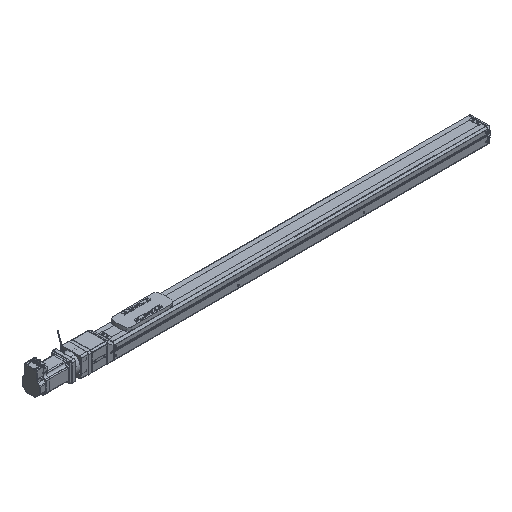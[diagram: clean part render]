
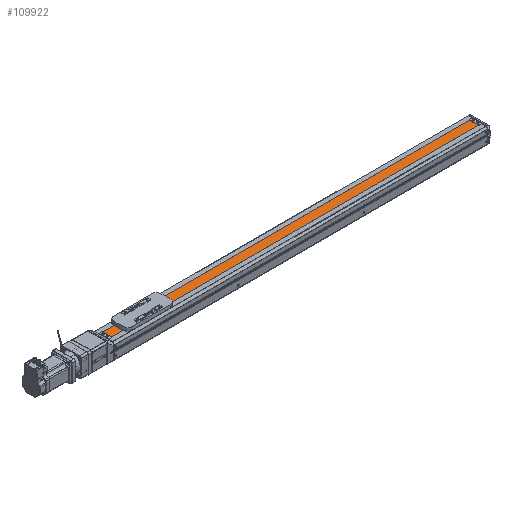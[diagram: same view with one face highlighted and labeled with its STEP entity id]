
A CAD part, isometric view. The second image highlights one B-rep face of the part: STEP entity #109922.
In plain terms, the highlighted planar face has unit normal (0, 0, 1) as drawn and (0, 1, 0) by its records, which use the part's own axes.
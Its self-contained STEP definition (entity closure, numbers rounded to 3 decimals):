
#109922 = ADVANCED_FACE('',(#109923),#109937,.T.);
#109923 = FACE_BOUND('',#109924,.T.);
#109924 = EDGE_LOOP('',(#109925,#109960,#109988,#110016));
#109925 = ORIENTED_EDGE('',*,*,#109926,.F.);
#109926 = EDGE_CURVE('',#109927,#109929,#109931,.T.);
#109927 = VERTEX_POINT('',#109928);
#109928 = CARTESIAN_POINT('',(-1130.5,18.,-13.));
#109929 = VERTEX_POINT('',#109930);
#109930 = CARTESIAN_POINT('',(-21.5,18.,-13.));
#109931 = SURFACE_CURVE('',#109932,(#109936,#109948),.PCURVE_S1.);
#109932 = LINE('',#109933,#109934);
#109933 = CARTESIAN_POINT('',(-1130.5,18.,-13.));
#109934 = VECTOR('',#109935,1.);
#109935 = DIRECTION('',(1.,0.,0.));
#109936 = PCURVE('',#109937,#109942);
#109937 = PLANE('',#109938);
#109938 = AXIS2_PLACEMENT_3D('',#109939,#109940,#109941);
#109939 = CARTESIAN_POINT('',(-1140.5,18.,-26.583));
#109940 = DIRECTION('',(0.,1.,0.));
#109941 = DIRECTION('',(0.,-0.,1.));
#109942 = DEFINITIONAL_REPRESENTATION('',(#109943),#109947);
#109943 = LINE('',#109944,#109945);
#109944 = CARTESIAN_POINT('',(13.583,10.));
#109945 = VECTOR('',#109946,1.);
#109946 = DIRECTION('',(0.,1.));
#109947 = ( GEOMETRIC_REPRESENTATION_CONTEXT(2) 
PARAMETRIC_REPRESENTATION_CONTEXT() REPRESENTATION_CONTEXT('2D SPACE',''
  ) );
#109948 = PCURVE('',#109949,#109954);
#109949 = PLANE('',#109950);
#109950 = AXIS2_PLACEMENT_3D('',#109951,#109952,#109953);
#109951 = CARTESIAN_POINT('',(-1130.5,18.,-13.));
#109952 = DIRECTION('',(0.,0.,1.));
#109953 = DIRECTION('',(1.,0.,-0.));
#109954 = DEFINITIONAL_REPRESENTATION('',(#109955),#109959);
#109955 = LINE('',#109956,#109957);
#109956 = CARTESIAN_POINT('',(0.,0.));
#109957 = VECTOR('',#109958,1.);
#109958 = DIRECTION('',(1.,0.));
#109959 = ( GEOMETRIC_REPRESENTATION_CONTEXT(2) 
PARAMETRIC_REPRESENTATION_CONTEXT() REPRESENTATION_CONTEXT('2D SPACE',''
  ) );
#109960 = ORIENTED_EDGE('',*,*,#109961,.T.);
#109961 = EDGE_CURVE('',#109927,#109962,#109964,.T.);
#109962 = VERTEX_POINT('',#109963);
#109963 = CARTESIAN_POINT('',(-1130.5,18.,13.));
#109964 = SURFACE_CURVE('',#109965,(#109969,#109976),.PCURVE_S1.);
#109965 = LINE('',#109966,#109967);
#109966 = CARTESIAN_POINT('',(-1130.5,18.,-26.583));
#109967 = VECTOR('',#109968,1.);
#109968 = DIRECTION('',(0.,0.,1.));
#109969 = PCURVE('',#109937,#109970);
#109970 = DEFINITIONAL_REPRESENTATION('',(#109971),#109975);
#109971 = LINE('',#109972,#109973);
#109972 = CARTESIAN_POINT('',(0.,10.));
#109973 = VECTOR('',#109974,1.);
#109974 = DIRECTION('',(1.,0.));
#109975 = ( GEOMETRIC_REPRESENTATION_CONTEXT(2) 
PARAMETRIC_REPRESENTATION_CONTEXT() REPRESENTATION_CONTEXT('2D SPACE',''
  ) );
#109976 = PCURVE('',#109977,#109982);
#109977 = PLANE('',#109978);
#109978 = AXIS2_PLACEMENT_3D('',#109979,#109980,#109981);
#109979 = CARTESIAN_POINT('',(-1130.5,0.,0.));
#109980 = DIRECTION('',(1.,0.,0.));
#109981 = DIRECTION('',(0.,0.,-1.));
#109982 = DEFINITIONAL_REPRESENTATION('',(#109983),#109987);
#109983 = LINE('',#109984,#109985);
#109984 = CARTESIAN_POINT('',(26.583,18.));
#109985 = VECTOR('',#109986,1.);
#109986 = DIRECTION('',(-1.,0.));
#109987 = ( GEOMETRIC_REPRESENTATION_CONTEXT(2) 
PARAMETRIC_REPRESENTATION_CONTEXT() REPRESENTATION_CONTEXT('2D SPACE',''
  ) );
#109988 = ORIENTED_EDGE('',*,*,#109989,.T.);
#109989 = EDGE_CURVE('',#109962,#109990,#109992,.T.);
#109990 = VERTEX_POINT('',#109991);
#109991 = CARTESIAN_POINT('',(-21.5,18.,13.));
#109992 = SURFACE_CURVE('',#109993,(#109997,#110004),.PCURVE_S1.);
#109993 = LINE('',#109994,#109995);
#109994 = CARTESIAN_POINT('',(-1130.5,18.,13.));
#109995 = VECTOR('',#109996,1.);
#109996 = DIRECTION('',(1.,0.,0.));
#109997 = PCURVE('',#109937,#109998);
#109998 = DEFINITIONAL_REPRESENTATION('',(#109999),#110003);
#109999 = LINE('',#110000,#110001);
#110000 = CARTESIAN_POINT('',(39.583,10.));
#110001 = VECTOR('',#110002,1.);
#110002 = DIRECTION('',(0.,1.));
#110003 = ( GEOMETRIC_REPRESENTATION_CONTEXT(2) 
PARAMETRIC_REPRESENTATION_CONTEXT() REPRESENTATION_CONTEXT('2D SPACE',''
  ) );
#110004 = PCURVE('',#110005,#110010);
#110005 = PLANE('',#110006);
#110006 = AXIS2_PLACEMENT_3D('',#110007,#110008,#110009);
#110007 = CARTESIAN_POINT('',(-1130.5,15.,13.));
#110008 = DIRECTION('',(0.,0.,-1.));
#110009 = DIRECTION('',(-1.,0.,0.));
#110010 = DEFINITIONAL_REPRESENTATION('',(#110011),#110015);
#110011 = LINE('',#110012,#110013);
#110012 = CARTESIAN_POINT('',(0.,3.));
#110013 = VECTOR('',#110014,1.);
#110014 = DIRECTION('',(-1.,0.));
#110015 = ( GEOMETRIC_REPRESENTATION_CONTEXT(2) 
PARAMETRIC_REPRESENTATION_CONTEXT() REPRESENTATION_CONTEXT('2D SPACE',''
  ) );
#110016 = ORIENTED_EDGE('',*,*,#110017,.T.);
#110017 = EDGE_CURVE('',#109990,#109929,#110018,.T.);
#110018 = SURFACE_CURVE('',#110019,(#110023,#110030),.PCURVE_S1.);
#110019 = LINE('',#110020,#110021);
#110020 = CARTESIAN_POINT('',(-21.5,18.,-26.583));
#110021 = VECTOR('',#110022,1.);
#110022 = DIRECTION('',(0.,0.,-1.));
#110023 = PCURVE('',#109937,#110024);
#110024 = DEFINITIONAL_REPRESENTATION('',(#110025),#110029);
#110025 = LINE('',#110026,#110027);
#110026 = CARTESIAN_POINT('',(0.,1119.));
#110027 = VECTOR('',#110028,1.);
#110028 = DIRECTION('',(-1.,0.));
#110029 = ( GEOMETRIC_REPRESENTATION_CONTEXT(2) 
PARAMETRIC_REPRESENTATION_CONTEXT() REPRESENTATION_CONTEXT('2D SPACE',''
  ) );
#110030 = PCURVE('',#110031,#110036);
#110031 = PLANE('',#110032);
#110032 = AXIS2_PLACEMENT_3D('',#110033,#110034,#110035);
#110033 = CARTESIAN_POINT('',(-21.5,0.,0.));
#110034 = DIRECTION('',(1.,0.,0.));
#110035 = DIRECTION('',(0.,0.,-1.));
#110036 = DEFINITIONAL_REPRESENTATION('',(#110037),#110041);
#110037 = LINE('',#110038,#110039);
#110038 = CARTESIAN_POINT('',(26.583,18.));
#110039 = VECTOR('',#110040,1.);
#110040 = DIRECTION('',(1.,0.));
#110041 = ( GEOMETRIC_REPRESENTATION_CONTEXT(2) 
PARAMETRIC_REPRESENTATION_CONTEXT() REPRESENTATION_CONTEXT('2D SPACE',''
  ) );
